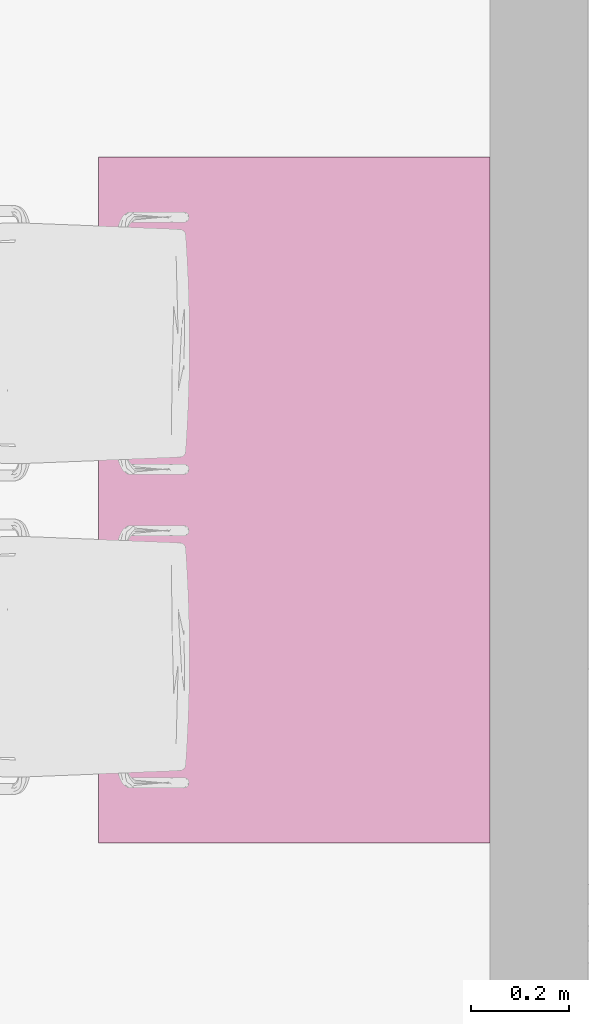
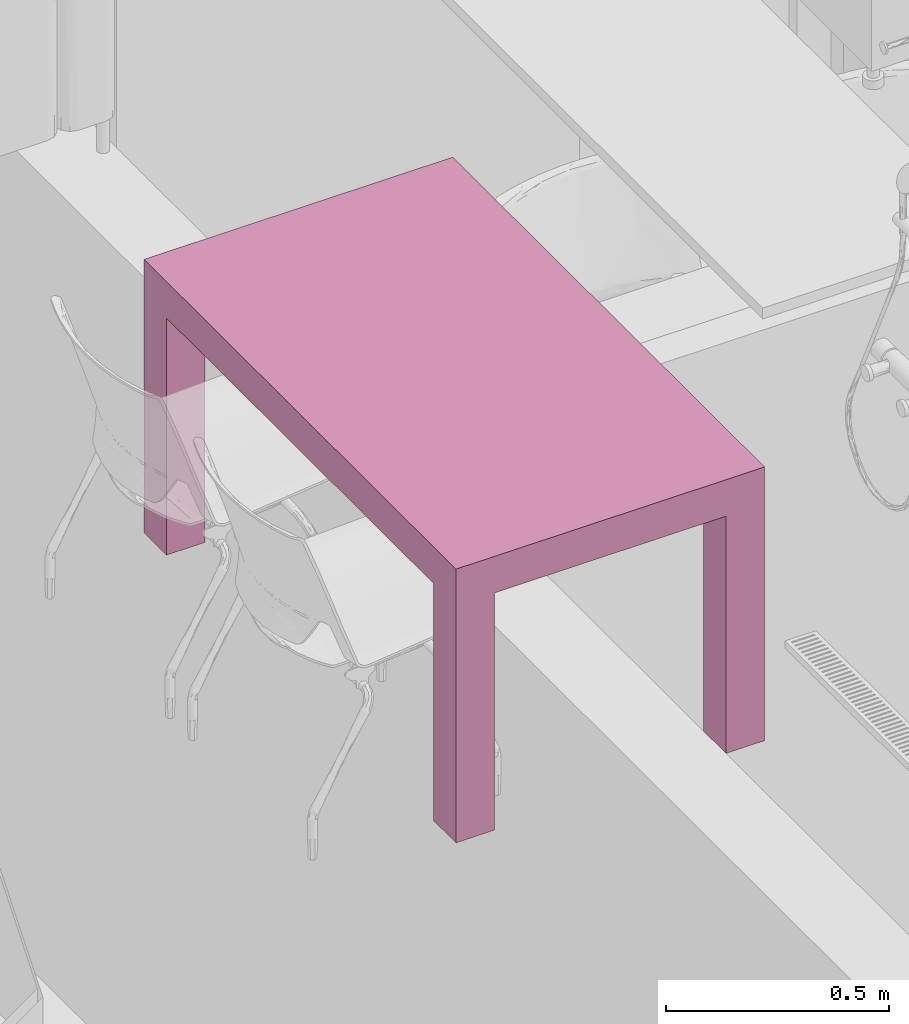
# One storey, part 79 of 125: 1 furnishing.
"""IFC2X3 building model written with IfcOpenShell, lengths in millimetres."""

from ifc_helpers import new_model, entity, si_unit, converted_unit, direction, frame, origin, place, context, subcontext, project, spatial, faceted_brep, source, transform, mapped, material, type_object, type_shapes, element, save


model = new_model("IFC2X3")

# Units and contexts
model_context = context("Model", 3, precision=0.01, world=origin(), true_north=direction((6.123233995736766e-17, 1.0)))
plan_context = context("Plan", 3, precision=0.01, world=origin(), true_north=direction((6.123233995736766e-17, 1.0)))
body_context = subcontext(model_context, "Body", "Model", "MODEL_VIEW")
ifc_project = project(units=[si_unit("LENGTHUNIT", "METRE", prefix="MILLI"), converted_unit("PLANEANGLEUNIT", "DEGREE", entity("IfcPlaneAngleMeasure", 0.017453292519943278), si_unit("PLANEANGLEUNIT", "RADIAN"), dimensions=[0, 0, 0, 0, 0, 0, 0]), si_unit("AREAUNIT", "SQUARE_METRE")], contexts=[model_context, plan_context])

# Site, building, storey, space
site_placement = place(None, origin())
site = spatial("IfcSite", under=ifc_project, at=site_placement, Name="Default", CompositionType="ELEMENT")
building_placement = place(site_placement, origin())
building = spatial("IfcBuilding", under=site, at=building_placement, CompositionType="ELEMENT")
storey_placement = place(building_placement, frame((0.0, 0.0, 3125.0)))
storey = spatial("IfcBuildingStorey", under=building, at=storey_placement, Name="2K", CompositionType="ELEMENT", Elevation=3125.0)
space_placement = place(storey_placement, origin())
space = spatial("IfcSpace", under=storey, at=space_placement, Name="2-2.2", CompositionType="ELEMENT", InteriorOrExteriorSpace="INTERNAL")

# Furnishing
ifc_material = material(Name="<Unnamed>")
furniture_type = type_object("IfcFurnitureType", Name="HR_Furniture_Table_Generic_v2016-02-11:1600x800", AssemblyPlace="NOTDEFINED", material=ifc_material)
shared_shape = source(origin(), body_context, "Body", "Brep", [
    faceted_brep([(-400.0, -600.0, 0.0), (-300.0, -600.0, 0.0), (-300.0, -700.0, 0.0), (-400.0, -700.0, 0.0), (-300.0, 700.0, 0.0), (-400.0, 700.0, 0.0), (-400.0, 700.0, 750.0), (400.0, 700.0, 750.0), (400.0, 700.0, 0.0), (300.0, 700.0, 0.0), (300.0, 700.0, 650.0), (-300.0, 700.0, 650.0), (-400.0, 600.0, 0.0), (-400.0, 600.0, 650.0), (-400.0, -600.0, 650.0), (-400.0, -700.0, 750.0), (-300.0, 600.0, 0.0), (-300.0, 600.0, 650.0), (300.0, 600.0, 0.0), (300.0, 600.0, 650.0), (400.0, 600.0, 0.0), (400.0, 600.0, 650.0), (400.0, -700.0, 750.0), (400.0, -700.0, 0.0), (400.0, -600.0, 0.0), (400.0, -600.0, 650.0), (300.0, -600.0, 0.0), (300.0, -600.0, 650.0), (300.0, -700.0, 0.0), (300.0, -700.0, 650.0), (-300.0, -700.0, 650.0), (-300.0, -600.0, 650.0)], [[[0, 1, 2, 3]], [[4, 5, 6, 7, 8, 9, 10, 11]], [[6, 5, 12, 13, 14, 0, 3, 15]], [[12, 16, 17, 13]], [[16, 4, 11, 17]], [[9, 18, 19, 10]], [[18, 20, 21, 19]], [[20, 8, 7, 22, 23, 24, 25, 21]], [[24, 26, 27, 25]], [[26, 28, 29, 27]], [[28, 23, 22, 15, 3, 2, 30, 29]], [[2, 1, 31, 30]], [[1, 0, 14, 31]], [[7, 6, 15, 22]], [[11, 10, 19, 21, 25, 27, 29, 30, 31, 14, 13, 17]], [[4, 16, 12, 5]], [[8, 20, 18, 9]], [[24, 23, 28, 26]]]),
])
type_shapes(furniture_type, [shared_shape])
furnishing_placement = place(space_placement, frame((9550.0, 10635.0, 3170.0)))
element("IfcFurnishingElement", 1, at=furnishing_placement, inside=space, type_object=furniture_type, material=ifc_material, Name="HR_Furniture_Table_Generic_v2016-02-11:1600x800", ObjectType="HR_Furniture_Table_Generic_v2016-02-11:1600x800", context=body_context, shape_type="MappedRepresentation", body=[
    mapped(shared_shape, transform((0.0, 0.0, 0.0), scale=1.0)),
])

save(model, "model.ifc")
